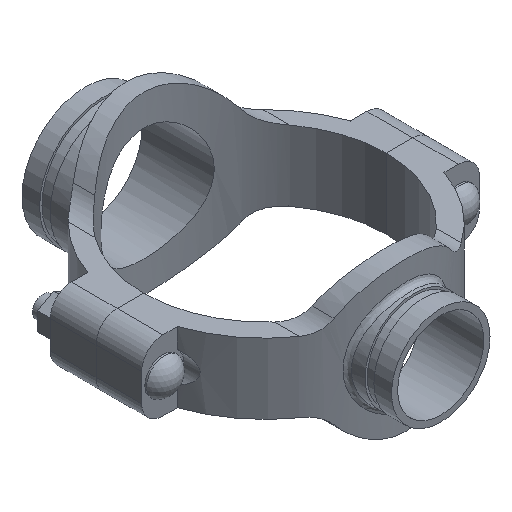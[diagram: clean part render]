
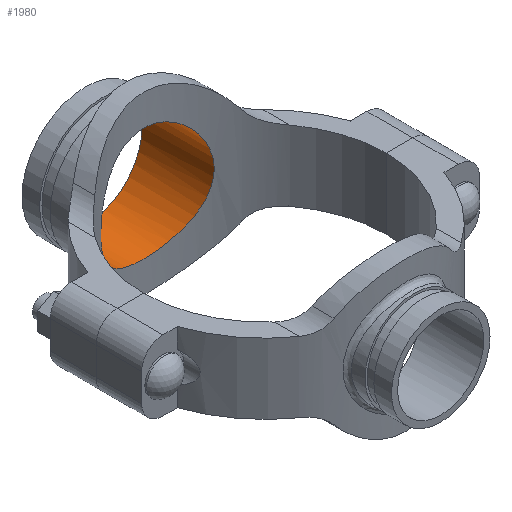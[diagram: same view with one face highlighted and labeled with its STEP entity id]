
A CAD part, isometric view. The second image highlights one B-rep face of the part: STEP entity #1980.
In plain terms, the highlighted cylindrical face has radius 51.197 mm (diameter 102.394 mm), a full revolution.
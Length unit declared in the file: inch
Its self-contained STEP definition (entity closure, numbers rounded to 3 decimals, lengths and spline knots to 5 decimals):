
#35=B_SPLINE_CURVE_WITH_KNOTS('',3,(#3406,#3407,#3408,#3409,#3410,#3411,
#3412,#3413,#3414,#3415,#3416,#3417,#3418,#3419,#3420,#3421,#3422,#3423,
#3424,#3425,#3426,#3427,#3428,#3429,#3430,#3431,#3432,#3433,#3434,#3435,
#3436,#3437,#3438,#3439,#3440,#3441,#3442,#3443,#3444,#3445,#3446,#3447,
#3448,#3449,#3450,#3451,#3452,#3453,#3454,#3455,#3456,#3457,#3458,#3459,
#3460,#3461,#3462,#3463,#3464,#3465,#3466,#3467,#3468,#3469,#3470,#3471),
 .UNSPECIFIED.,.T.,.F.,(4,2,2,2,2,2,2,2,2,2,2,2,2,2,2,2,2,2,2,2,2,2,2,2,
2,2,2,2,2,2,2,2,4),(0.,0.98215,1.96431,2.94646,
3.92861,4.90879,5.88897,6.86916,7.84934,
8.82952,9.8097,10.78988,11.77006,12.75221,
13.73436,14.71652,15.69867,16.68082,17.66298,
18.64513,19.62729,20.60747,21.58765,22.56783,
23.54801,24.52819,25.50837,26.48855,27.46873,
28.45088,29.43304,30.41519,31.39734),
 .UNSPECIFIED.);
#77=CYLINDRICAL_SURFACE('',#2186,2.01563);
#178=FACE_OUTER_BOUND('',#293,.T.);
#293=EDGE_LOOP('',(#1408,#1409,#1410,#1411));
#440=LINE('',#3405,#590);
#590=VECTOR('',#2532,2.01563);
#713=CIRCLE('',#2187,2.01563);
#846=VERTEX_POINT('',#3402);
#847=VERTEX_POINT('',#3404);
#1062=EDGE_CURVE('',#846,#846,#713,.T.);
#1063=EDGE_CURVE('',#846,#847,#440,.T.);
#1064=EDGE_CURVE('',#847,#847,#35,.T.);
#1408=ORIENTED_EDGE('',*,*,#1062,.F.);
#1409=ORIENTED_EDGE('',*,*,#1063,.T.);
#1410=ORIENTED_EDGE('',*,*,#1064,.F.);
#1411=ORIENTED_EDGE('',*,*,#1063,.F.);
#1980=ADVANCED_FACE('',(#178),#77,.F.);
#2186=AXIS2_PLACEMENT_3D('',#3401,#2528,#2529);
#2187=AXIS2_PLACEMENT_3D('',#3403,#2530,#2531);
#2528=DIRECTION('center_axis',(0.,-1.,0.));
#2529=DIRECTION('ref_axis',(-1.,0.,0.));
#2530=DIRECTION('center_axis',(0.,-1.,0.));
#2531=DIRECTION('ref_axis',(-1.,0.,0.));
#2532=DIRECTION('',(0.,-1.,0.));
#3401=CARTESIAN_POINT('Origin',(0.,6.38,0.));
#3402=CARTESIAN_POINT('',(2.01563,6.38,0.));
#3403=CARTESIAN_POINT('Origin',(0.,6.38,0.));
#3404=CARTESIAN_POINT('',(2.01563,3.81247,0.));
#3405=CARTESIAN_POINT('',(2.01563,6.38,0.));
#3406=CARTESIAN_POINT('Ctrl Pts',(2.01563,3.81247,0.));
#3407=CARTESIAN_POINT('Ctrl Pts',(2.01563,3.81247,-0.12889));
#3408=CARTESIAN_POINT('Ctrl Pts',(2.00307,3.81919,-0.26139));
#3409=CARTESIAN_POINT('Ctrl Pts',(1.95104,3.84603,-0.5235));
#3410=CARTESIAN_POINT('Ctrl Pts',(1.91159,3.86611,-0.65312));
#3411=CARTESIAN_POINT('Ctrl Pts',(1.8082,3.91553,-0.90064));
#3412=CARTESIAN_POINT('Ctrl Pts',(1.74417,3.94486,-1.01878));
#3413=CARTESIAN_POINT('Ctrl Pts',(1.59695,4.00672,-1.23685));
#3414=CARTESIAN_POINT('Ctrl Pts',(1.51373,4.03919,-1.33679));
#3415=CARTESIAN_POINT('Ctrl Pts',(1.33697,4.10109,-1.51355));
#3416=CARTESIAN_POINT('Ctrl Pts',(1.23712,4.13279,-1.59675));
#3417=CARTESIAN_POINT('Ctrl Pts',(1.01901,4.1919,-1.74404));
#3418=CARTESIAN_POINT('Ctrl Pts',(0.90074,4.21926,-1.80816));
#3419=CARTESIAN_POINT('Ctrl Pts',(0.65296,4.26464,-1.91165));
#3420=CARTESIAN_POINT('Ctrl Pts',(0.5232,4.28267,-1.95112));
#3421=CARTESIAN_POINT('Ctrl Pts',(0.26104,4.3066,-2.00311));
#3422=CARTESIAN_POINT('Ctrl Pts',(0.12863,4.3125,-2.01563));
#3423=CARTESIAN_POINT('Ctrl Pts',(-0.12863,4.3125,-2.01563));
#3424=CARTESIAN_POINT('Ctrl Pts',(-0.26104,4.3066,-2.00311));
#3425=CARTESIAN_POINT('Ctrl Pts',(-0.5232,4.28267,-1.95112));
#3426=CARTESIAN_POINT('Ctrl Pts',(-0.65296,4.26464,-1.91165));
#3427=CARTESIAN_POINT('Ctrl Pts',(-0.90074,4.21926,-1.80816));
#3428=CARTESIAN_POINT('Ctrl Pts',(-1.01901,4.1919,-1.74404));
#3429=CARTESIAN_POINT('Ctrl Pts',(-1.23712,4.13279,-1.59675));
#3430=CARTESIAN_POINT('Ctrl Pts',(-1.33697,4.10109,-1.51355));
#3431=CARTESIAN_POINT('Ctrl Pts',(-1.51373,4.03919,-1.33679));
#3432=CARTESIAN_POINT('Ctrl Pts',(-1.59695,4.00672,-1.23685));
#3433=CARTESIAN_POINT('Ctrl Pts',(-1.74417,3.94486,-1.01878));
#3434=CARTESIAN_POINT('Ctrl Pts',(-1.8082,3.91553,-0.90064));
#3435=CARTESIAN_POINT('Ctrl Pts',(-1.91159,3.86611,-0.65312));
#3436=CARTESIAN_POINT('Ctrl Pts',(-1.95104,3.84603,-0.5235));
#3437=CARTESIAN_POINT('Ctrl Pts',(-2.00307,3.81919,-0.26139));
#3438=CARTESIAN_POINT('Ctrl Pts',(-2.01563,3.81247,-0.12889));
#3439=CARTESIAN_POINT('Ctrl Pts',(-2.01563,3.81247,0.12889));
#3440=CARTESIAN_POINT('Ctrl Pts',(-2.00307,3.81919,0.26139));
#3441=CARTESIAN_POINT('Ctrl Pts',(-1.95104,3.84603,0.5235));
#3442=CARTESIAN_POINT('Ctrl Pts',(-1.91159,3.86611,0.65312));
#3443=CARTESIAN_POINT('Ctrl Pts',(-1.8082,3.91553,0.90064));
#3444=CARTESIAN_POINT('Ctrl Pts',(-1.74417,3.94486,1.01878));
#3445=CARTESIAN_POINT('Ctrl Pts',(-1.59695,4.00672,1.23685));
#3446=CARTESIAN_POINT('Ctrl Pts',(-1.51373,4.03919,1.33679));
#3447=CARTESIAN_POINT('Ctrl Pts',(-1.33697,4.10109,1.51355));
#3448=CARTESIAN_POINT('Ctrl Pts',(-1.23712,4.13279,1.59675));
#3449=CARTESIAN_POINT('Ctrl Pts',(-1.01901,4.1919,1.74404));
#3450=CARTESIAN_POINT('Ctrl Pts',(-0.90074,4.21926,1.80816));
#3451=CARTESIAN_POINT('Ctrl Pts',(-0.65296,4.26464,1.91165));
#3452=CARTESIAN_POINT('Ctrl Pts',(-0.5232,4.28267,1.95112));
#3453=CARTESIAN_POINT('Ctrl Pts',(-0.26104,4.3066,2.00311));
#3454=CARTESIAN_POINT('Ctrl Pts',(-0.12863,4.3125,2.01563));
#3455=CARTESIAN_POINT('Ctrl Pts',(0.12863,4.3125,2.01563));
#3456=CARTESIAN_POINT('Ctrl Pts',(0.26104,4.3066,2.00311));
#3457=CARTESIAN_POINT('Ctrl Pts',(0.5232,4.28267,1.95112));
#3458=CARTESIAN_POINT('Ctrl Pts',(0.65296,4.26464,1.91165));
#3459=CARTESIAN_POINT('Ctrl Pts',(0.90074,4.21926,1.80816));
#3460=CARTESIAN_POINT('Ctrl Pts',(1.01901,4.1919,1.74404));
#3461=CARTESIAN_POINT('Ctrl Pts',(1.23712,4.13279,1.59675));
#3462=CARTESIAN_POINT('Ctrl Pts',(1.33697,4.10109,1.51355));
#3463=CARTESIAN_POINT('Ctrl Pts',(1.51373,4.03919,1.33679));
#3464=CARTESIAN_POINT('Ctrl Pts',(1.59695,4.00672,1.23685));
#3465=CARTESIAN_POINT('Ctrl Pts',(1.74417,3.94486,1.01878));
#3466=CARTESIAN_POINT('Ctrl Pts',(1.8082,3.91553,0.90064));
#3467=CARTESIAN_POINT('Ctrl Pts',(1.91159,3.86611,0.65312));
#3468=CARTESIAN_POINT('Ctrl Pts',(1.95104,3.84603,0.5235));
#3469=CARTESIAN_POINT('Ctrl Pts',(2.00307,3.81919,0.26139));
#3470=CARTESIAN_POINT('Ctrl Pts',(2.01563,3.81247,0.12889));
#3471=CARTESIAN_POINT('Ctrl Pts',(2.01563,3.81247,0.));
